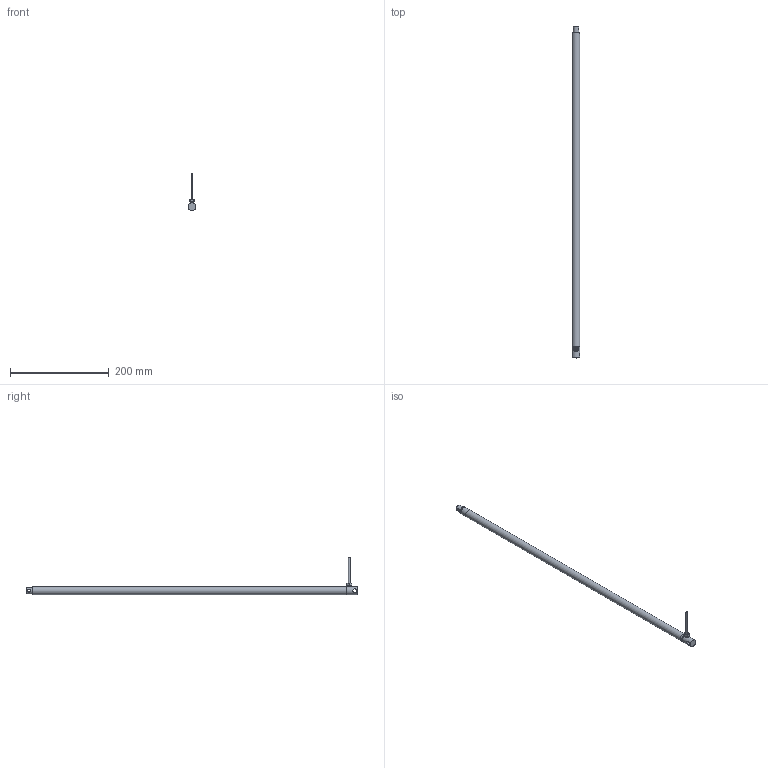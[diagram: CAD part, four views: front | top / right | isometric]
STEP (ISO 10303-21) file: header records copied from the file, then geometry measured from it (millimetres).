
FILE_DESCRIPTION(/* description */ ('Unknown'),/* implementation_level */ '2;1');
FILE_NAME(/* name */ '107.00056 Zylinder CD 1460_eingefahren',/* time_stamp */ '2018-04-20T13:22:19+02:00',/* author */ ('Unknown'),/* organization */ ('Unknown'),/* preprocessor_version */ 'ST-DEVELOPER v16.7',/* originating_system */ 'DEX',/* authorisation */ $);
FILE_SCHEMA (('AUTOMOTIVE_DESIGN {1 0 10303 214 3 1 1}'));
Length unit declared in the file: millimetre
Products named in the file (9): 107.00056; 121.00006; 142.00021; 125.00021; 115.00001_oa_0; 125.00034; 120.00006; 122.00001; 113.00002_70mm
Assembly tree (8 placements, depth 2):
  107.00056
    121.00006
    142.00021
    125.00021
    115.00001_oa_0
    125.00034
    120.00006
    122.00001
    113.00002_70mm
Bounding box: 16 x 674 x 76 mm (x, y, z)
Volume: 107446.9 mm3; surface area: 90573.3 mm2
Topology: 7 solids, 7 shells, 80 faces, 173 edges, 112 vertices
Faces by surface type: plane 28, cylinder 27, cone 21, torus 3, sphere 1
Full cylindrical faces by diameter (mm): 2.2 x1, 3 x1, 3.5 x1, 4 x1, 4.1 x1, 4.2 x1, 6 x1, 6.917 x2, 7.763 x2, 8 x4, 8.1 x3, 9 x1, 12 x2, 13.9 x2, 14 x2, 16 x2
Entity records: 2448 total; most frequent: CARTESIAN_POINT 450, DIRECTION 330, ORIENTED_EDGE 210, AXIS2_PLACEMENT_3D 156, FACE_BOUND 151, EDGE_LOOP 149, EDGE_CURVE 105, VERTEX_POINT 94
